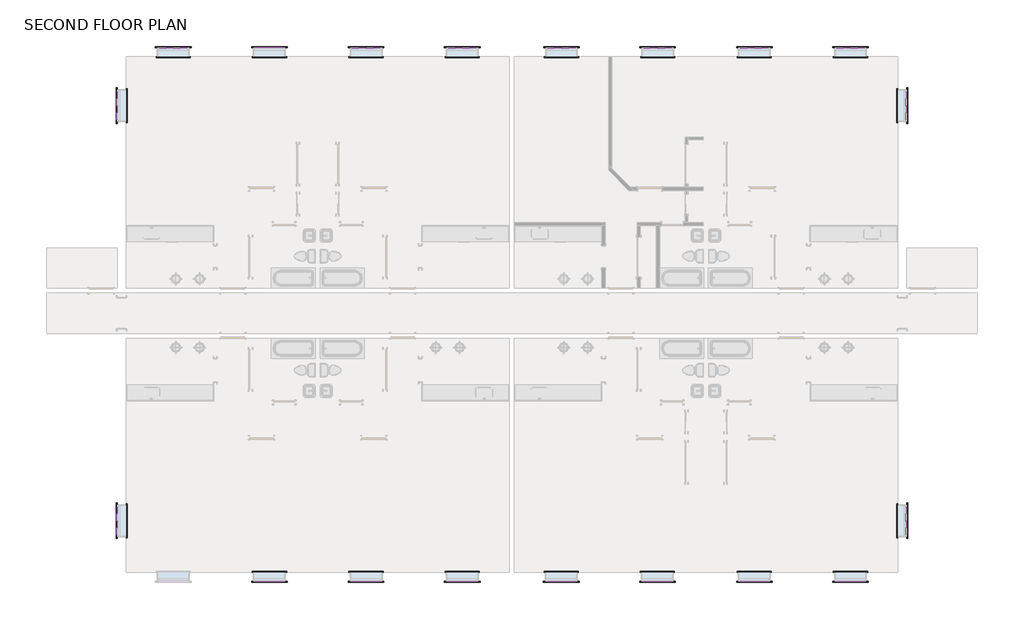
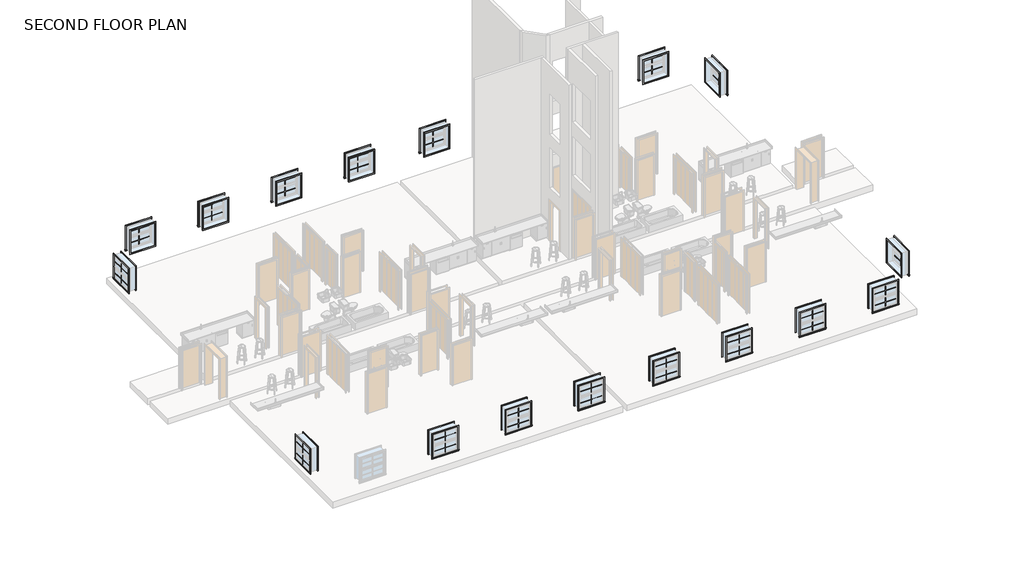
# One storey, part 3 of 3: 76 proxies.
"""IFC4 building model written with IfcOpenShell, lengths in millimetres."""

from ifc_helpers import new_model, si_unit, origin, place, context, project, spatial, transform, mapped, element, save
from components import muntin_pattern_2x2_muntin_pattern_2x2_c44f4804, muntin_pattern_2x2_muntin_pattern_2x2_05dfa543, muntin_pattern_2x2_muntin_pattern_2x2_770224b8, muntin_pattern_2x2_muntin_pattern_2x2_cf99dd86, trim_window_exterior_flat_with_sill_7cfdd449, trim_window_exterior_flat_with_sill_ac84ebb5, trim_window_interior_flat_picture_frame_f1e0b15b, trim_window_interior_flat_picture_frame_caf2db4f

model = new_model("IFC4")

# Units and contexts
model_context = context("Model", 3, world=origin())
ifc_project = project(units=[si_unit("LENGTHUNIT", "METRE", prefix="MILLI")], contexts=[model_context])

# Site, building, storey
site = spatial("IfcSite", under=ifc_project)
building = spatial("IfcBuilding", under=site)
storey = spatial("IfcBuildingStorey", under=building, Name="SECOND FLOOR PLAN", Elevation=2844.8)

# Proxies
placement = place(None, origin())
muntin_pattern_2x2_muntin_pattern_2x2_shape = muntin_pattern_2x2_muntin_pattern_2x2_c44f4804(model_context)
element("IfcBuildingElementProxy", 1, Name="Muntin Pattern_2x2 : Muntin Pattern_2x2", ObjectType="Muntin Pattern_2x2 : Muntin Pattern_2x2", at=placement, inside=storey, context=model_context, shape_type="MappedRepresentation", body=[
    mapped(muntin_pattern_2x2_muntin_pattern_2x2_shape, transform((-5537.3665125, 13431.007194, 4438.65), x_axis=(0.0, 1.0, 0.0), y_axis=(-1.0, 0.0, 0.0), z_axis=(0.0, 0.0, 1.0))),
])
element("IfcBuildingElementProxy", 2, Name="Muntin Pattern_2x2 : Muntin Pattern_2x2", ObjectType="Muntin Pattern_2x2 : Muntin Pattern_2x2", at=placement, inside=storey, context=model_context, shape_type="MappedRepresentation", body=[
    mapped(muntin_pattern_2x2_muntin_pattern_2x2_shape, transform((-3399.0477625, 15644.6887881, 4438.65), x_axis=(1.0, 0.0, 0.0), y_axis=(0.0, 1.0, 0.0), z_axis=(0.0, 0.0, 1.0))),
])
element("IfcBuildingElementProxy", 3, Name="Muntin Pattern_2x2 : Muntin Pattern_2x2", ObjectType="Muntin Pattern_2x2 : Muntin Pattern_2x2", at=placement, inside=storey, context=model_context, shape_type="MappedRepresentation", body=[
    mapped(muntin_pattern_2x2_muntin_pattern_2x2_shape, transform((271.9647375, 15644.6887881, 4438.65), x_axis=(1.0, 0.0, 0.0), y_axis=(0.0, 1.0, 0.0), z_axis=(0.0, 0.0, 1.0))),
])
element("IfcBuildingElementProxy", 4, Name="Muntin Pattern_2x2 : Muntin Pattern_2x2", ObjectType="Muntin Pattern_2x2 : Muntin Pattern_2x2", at=placement, inside=storey, context=model_context, shape_type="MappedRepresentation", body=[
    mapped(muntin_pattern_2x2_muntin_pattern_2x2_shape, transform((7635.6647375, -4742.0612119, 4438.65), x_axis=(-1.0, 0.0, 0.0), y_axis=(0.0, -1.0, 0.0), z_axis=(0.0, 0.0, 1.0))),
])
element("IfcBuildingElementProxy", 5, Name="Muntin Pattern_2x2 : Muntin Pattern_2x2", ObjectType="Muntin Pattern_2x2 : Muntin Pattern_2x2", at=placement, inside=storey, context=model_context, shape_type="MappedRepresentation", body=[
    mapped(muntin_pattern_2x2_muntin_pattern_2x2_shape, transform((3964.6522375, -4742.0612119, 4438.65), x_axis=(-1.0, 0.0, 0.0), y_axis=(0.0, -1.0, 0.0), z_axis=(0.0, 0.0, 1.0))),
])
element("IfcBuildingElementProxy", 6, Name="Muntin Pattern_2x2 : Muntin Pattern_2x2", ObjectType="Muntin Pattern_2x2 : Muntin Pattern_2x2", at=placement, inside=storey, context=model_context, shape_type="MappedRepresentation", body=[
    mapped(muntin_pattern_2x2_muntin_pattern_2x2_shape, transform((24597.5834875, -2431.3796179, 4438.65), x_axis=(0.0, -1.0, 0.0), y_axis=(1.0, 0.0, 0.0), z_axis=(0.0, 0.0, 1.0))),
])
element("IfcBuildingElementProxy", 7, Name="Muntin Pattern_2x2 : Muntin Pattern_2x2", ObjectType="Muntin Pattern_2x2 : Muntin Pattern_2x2", at=placement, inside=storey, context=model_context, shape_type="MappedRepresentation", body=[
    mapped(muntin_pattern_2x2_muntin_pattern_2x2_shape, transform((22460.0647375, -4742.0612119, 4438.65), x_axis=(-1.0, 0.0, 0.0), y_axis=(0.0, -1.0, 0.0), z_axis=(0.0, 0.0, 1.0))),
])
element("IfcBuildingElementProxy", 8, Name="Muntin Pattern_2x2 : Muntin Pattern_2x2", ObjectType="Muntin Pattern_2x2 : Muntin Pattern_2x2", at=placement, inside=storey, context=model_context, shape_type="MappedRepresentation", body=[
    mapped(muntin_pattern_2x2_muntin_pattern_2x2_shape, transform((18789.0522375, -4742.0612119, 4438.65), x_axis=(-1.0, 0.0, 0.0), y_axis=(0.0, -1.0, 0.0), z_axis=(0.0, 0.0, 1.0))),
])
element("IfcBuildingElementProxy", 9, Name="Muntin Pattern_2x2 : Muntin Pattern_2x2", ObjectType="Muntin Pattern_2x2 : Muntin Pattern_2x2", at=placement, inside=storey, context=model_context, shape_type="MappedRepresentation", body=[
    mapped(muntin_pattern_2x2_muntin_pattern_2x2_shape, transform((11425.3522375, 15644.6887881, 4438.65), x_axis=(1.0, 0.0, 0.0), y_axis=(0.0, 1.0, 0.0), z_axis=(0.0, 0.0, 1.0))),
])
element("IfcBuildingElementProxy", 10, Name="Muntin Pattern_2x2 : Muntin Pattern_2x2", ObjectType="Muntin Pattern_2x2 : Muntin Pattern_2x2", at=placement, inside=storey, context=model_context, shape_type="MappedRepresentation", body=[
    mapped(muntin_pattern_2x2_muntin_pattern_2x2_shape, transform((15096.3647375, 15644.6887881, 4438.65), x_axis=(1.0, 0.0, 0.0), y_axis=(0.0, 1.0, 0.0), z_axis=(0.0, 0.0, 1.0))),
])
muntin_pattern_2x2_muntin_pattern_2x2_2_shape = muntin_pattern_2x2_muntin_pattern_2x2_05dfa543(model_context)
element("IfcBuildingElementProxy", 11, Name="Muntin Pattern_2x2 : Muntin Pattern_2x2", ObjectType="Muntin Pattern_2x2 : Muntin Pattern_2x2", at=placement, inside=storey, context=model_context, shape_type="MappedRepresentation", body=[
    mapped(muntin_pattern_2x2_muntin_pattern_2x2_2_shape, transform((-5537.3665125, 13431.007194, 3829.05), x_axis=(0.0, 1.0, 0.0), y_axis=(-1.0, 0.0, 0.0), z_axis=(0.0, 0.0, 1.0))),
])
element("IfcBuildingElementProxy", 12, Name="Muntin Pattern_2x2 : Muntin Pattern_2x2", ObjectType="Muntin Pattern_2x2 : Muntin Pattern_2x2", at=placement, inside=storey, context=model_context, shape_type="MappedRepresentation", body=[
    mapped(muntin_pattern_2x2_muntin_pattern_2x2_2_shape, transform((-3399.0477625, 15644.6887881, 3829.05), x_axis=(1.0, 0.0, 0.0), y_axis=(0.0, 1.0, 0.0), z_axis=(0.0, 0.0, 1.0))),
])
element("IfcBuildingElementProxy", 13, Name="Muntin Pattern_2x2 : Muntin Pattern_2x2", ObjectType="Muntin Pattern_2x2 : Muntin Pattern_2x2", at=placement, inside=storey, context=model_context, shape_type="MappedRepresentation", body=[
    mapped(muntin_pattern_2x2_muntin_pattern_2x2_2_shape, transform((271.9647375, 15644.6887881, 3829.05), x_axis=(1.0, 0.0, 0.0), y_axis=(0.0, 1.0, 0.0), z_axis=(0.0, 0.0, 1.0))),
])
element("IfcBuildingElementProxy", 14, Name="Muntin Pattern_2x2 : Muntin Pattern_2x2", ObjectType="Muntin Pattern_2x2 : Muntin Pattern_2x2", at=placement, inside=storey, context=model_context, shape_type="MappedRepresentation", body=[
    mapped(muntin_pattern_2x2_muntin_pattern_2x2_2_shape, transform((7635.6647375, -4742.0612119, 3829.05), x_axis=(-1.0, 0.0, 0.0), y_axis=(0.0, -1.0, 0.0), z_axis=(0.0, 0.0, 1.0))),
])
element("IfcBuildingElementProxy", 15, Name="Muntin Pattern_2x2 : Muntin Pattern_2x2", ObjectType="Muntin Pattern_2x2 : Muntin Pattern_2x2", at=placement, inside=storey, context=model_context, shape_type="MappedRepresentation", body=[
    mapped(muntin_pattern_2x2_muntin_pattern_2x2_2_shape, transform((3964.6522375, -4742.0612119, 3829.05), x_axis=(-1.0, 0.0, 0.0), y_axis=(0.0, -1.0, 0.0), z_axis=(0.0, 0.0, 1.0))),
])
element("IfcBuildingElementProxy", 16, Name="Muntin Pattern_2x2 : Muntin Pattern_2x2", ObjectType="Muntin Pattern_2x2 : Muntin Pattern_2x2", at=placement, inside=storey, context=model_context, shape_type="MappedRepresentation", body=[
    mapped(muntin_pattern_2x2_muntin_pattern_2x2_2_shape, transform((24597.5834875, -2431.3796179, 3829.05), x_axis=(0.0, -1.0, 0.0), y_axis=(1.0, 0.0, 0.0), z_axis=(0.0, 0.0, 1.0))),
])
element("IfcBuildingElementProxy", 17, Name="Muntin Pattern_2x2 : Muntin Pattern_2x2", ObjectType="Muntin Pattern_2x2 : Muntin Pattern_2x2", at=placement, inside=storey, context=model_context, shape_type="MappedRepresentation", body=[
    mapped(muntin_pattern_2x2_muntin_pattern_2x2_2_shape, transform((22460.0647375, -4742.0612119, 3829.05), x_axis=(-1.0, 0.0, 0.0), y_axis=(0.0, -1.0, 0.0), z_axis=(0.0, 0.0, 1.0))),
])
element("IfcBuildingElementProxy", 18, Name="Muntin Pattern_2x2 : Muntin Pattern_2x2", ObjectType="Muntin Pattern_2x2 : Muntin Pattern_2x2", at=placement, inside=storey, context=model_context, shape_type="MappedRepresentation", body=[
    mapped(muntin_pattern_2x2_muntin_pattern_2x2_2_shape, transform((18789.0522375, -4742.0612119, 3829.05), x_axis=(-1.0, 0.0, 0.0), y_axis=(0.0, -1.0, 0.0), z_axis=(0.0, 0.0, 1.0))),
])
element("IfcBuildingElementProxy", 19, Name="Muntin Pattern_2x2 : Muntin Pattern_2x2", ObjectType="Muntin Pattern_2x2 : Muntin Pattern_2x2", at=placement, inside=storey, context=model_context, shape_type="MappedRepresentation", body=[
    mapped(muntin_pattern_2x2_muntin_pattern_2x2_2_shape, transform((11425.3522375, 15644.6887881, 3829.05), x_axis=(1.0, 0.0, 0.0), y_axis=(0.0, 1.0, 0.0), z_axis=(0.0, 0.0, 1.0))),
])
element("IfcBuildingElementProxy", 20, Name="Muntin Pattern_2x2 : Muntin Pattern_2x2", ObjectType="Muntin Pattern_2x2 : Muntin Pattern_2x2", at=placement, inside=storey, context=model_context, shape_type="MappedRepresentation", body=[
    mapped(muntin_pattern_2x2_muntin_pattern_2x2_2_shape, transform((15096.3647375, 15644.6887881, 3829.05), x_axis=(1.0, 0.0, 0.0), y_axis=(0.0, 1.0, 0.0), z_axis=(0.0, 0.0, 1.0))),
])
muntin_pattern_2x2_muntin_pattern_2x2_3_shape = muntin_pattern_2x2_muntin_pattern_2x2_770224b8(model_context)
element("IfcBuildingElementProxy", 21, Name="Muntin Pattern_2x2 : Muntin Pattern_2x2", ObjectType="Muntin Pattern_2x2 : Muntin Pattern_2x2", at=placement, inside=storey, context=model_context, shape_type="MappedRepresentation", body=[
    mapped(muntin_pattern_2x2_muntin_pattern_2x2_3_shape, transform((7635.6647375, 15644.6887881, 4438.65), x_axis=(-1.0, 0.0, 0.0), y_axis=(0.0, -1.0, 0.0), z_axis=(0.0, 0.0, 1.0))),
])
element("IfcBuildingElementProxy", 22, Name="Muntin Pattern_2x2 : Muntin Pattern_2x2", ObjectType="Muntin Pattern_2x2 : Muntin Pattern_2x2", at=placement, inside=storey, context=model_context, shape_type="MappedRepresentation", body=[
    mapped(muntin_pattern_2x2_muntin_pattern_2x2_3_shape, transform((3964.6522375, 15644.6887881, 4438.65), x_axis=(-1.0, 0.0, 0.0), y_axis=(0.0, -1.0, 0.0), z_axis=(0.0, 0.0, 1.0))),
])
element("IfcBuildingElementProxy", 23, Name="Muntin Pattern_2x2 : Muntin Pattern_2x2", ObjectType="Muntin Pattern_2x2 : Muntin Pattern_2x2", at=placement, inside=storey, context=model_context, shape_type="MappedRepresentation", body=[
    mapped(muntin_pattern_2x2_muntin_pattern_2x2_3_shape, transform((24597.5834875, 13431.007194, 4438.65), x_axis=(0.0, 1.0, 0.0), y_axis=(-1.0, 0.0, 0.0), z_axis=(0.0, 0.0, 1.0))),
])
element("IfcBuildingElementProxy", 24, Name="Muntin Pattern_2x2 : Muntin Pattern_2x2", ObjectType="Muntin Pattern_2x2 : Muntin Pattern_2x2", at=placement, inside=storey, context=model_context, shape_type="MappedRepresentation", body=[
    mapped(muntin_pattern_2x2_muntin_pattern_2x2_3_shape, transform((22460.0647375, 15644.6887881, 4438.65), x_axis=(-1.0, 0.0, 0.0), y_axis=(0.0, -1.0, 0.0), z_axis=(0.0, 0.0, 1.0))),
])
element("IfcBuildingElementProxy", 25, Name="Muntin Pattern_2x2 : Muntin Pattern_2x2", ObjectType="Muntin Pattern_2x2 : Muntin Pattern_2x2", at=placement, inside=storey, context=model_context, shape_type="MappedRepresentation", body=[
    mapped(muntin_pattern_2x2_muntin_pattern_2x2_3_shape, transform((18789.0522375, 15644.6887881, 4438.65), x_axis=(-1.0, 0.0, 0.0), y_axis=(0.0, -1.0, 0.0), z_axis=(0.0, 0.0, 1.0))),
])
element("IfcBuildingElementProxy", 26, Name="Muntin Pattern_2x2 : Muntin Pattern_2x2", ObjectType="Muntin Pattern_2x2 : Muntin Pattern_2x2", at=placement, inside=storey, context=model_context, shape_type="MappedRepresentation", body=[
    mapped(muntin_pattern_2x2_muntin_pattern_2x2_3_shape, transform((-5537.3665125, -2431.3796179, 4438.65), x_axis=(0.0, -1.0, 0.0), y_axis=(1.0, 0.0, 0.0), z_axis=(0.0, 0.0, 1.0))),
])
element("IfcBuildingElementProxy", 27, Name="Muntin Pattern_2x2 : Muntin Pattern_2x2", ObjectType="Muntin Pattern_2x2 : Muntin Pattern_2x2", at=placement, inside=storey, context=model_context, shape_type="MappedRepresentation", body=[
    mapped(muntin_pattern_2x2_muntin_pattern_2x2_3_shape, transform((271.9647375, -4742.0612119, 4438.65), x_axis=(1.0, 0.0, 0.0), y_axis=(0.0, 1.0, 0.0), z_axis=(0.0, 0.0, 1.0))),
])
element("IfcBuildingElementProxy", 28, Name="Muntin Pattern_2x2 : Muntin Pattern_2x2", ObjectType="Muntin Pattern_2x2 : Muntin Pattern_2x2", at=placement, inside=storey, context=model_context, shape_type="MappedRepresentation", body=[
    mapped(muntin_pattern_2x2_muntin_pattern_2x2_3_shape, transform((11414.5522375, -4742.0612119, 4438.65), x_axis=(1.0, 0.0, 0.0), y_axis=(0.0, 1.0, 0.0), z_axis=(0.0, 0.0, 1.0))),
])
element("IfcBuildingElementProxy", 29, Name="Muntin Pattern_2x2 : Muntin Pattern_2x2", ObjectType="Muntin Pattern_2x2 : Muntin Pattern_2x2", at=placement, inside=storey, context=model_context, shape_type="MappedRepresentation", body=[
    mapped(muntin_pattern_2x2_muntin_pattern_2x2_3_shape, transform((15085.5647375, -4742.0612119, 4438.65), x_axis=(1.0, 0.0, 0.0), y_axis=(0.0, 1.0, 0.0), z_axis=(0.0, 0.0, 1.0))),
])
muntin_pattern_2x2_muntin_pattern_2x2_4_shape = muntin_pattern_2x2_muntin_pattern_2x2_cf99dd86(model_context)
element("IfcBuildingElementProxy", 30, Name="Muntin Pattern_2x2 : Muntin Pattern_2x2", ObjectType="Muntin Pattern_2x2 : Muntin Pattern_2x2", at=placement, inside=storey, context=model_context, shape_type="MappedRepresentation", body=[
    mapped(muntin_pattern_2x2_muntin_pattern_2x2_4_shape, transform((7635.6647375, 15644.6887881, 3829.05), x_axis=(-1.0, 0.0, 0.0), y_axis=(0.0, -1.0, 0.0), z_axis=(0.0, 0.0, 1.0))),
])
element("IfcBuildingElementProxy", 31, Name="Muntin Pattern_2x2 : Muntin Pattern_2x2", ObjectType="Muntin Pattern_2x2 : Muntin Pattern_2x2", at=placement, inside=storey, context=model_context, shape_type="MappedRepresentation", body=[
    mapped(muntin_pattern_2x2_muntin_pattern_2x2_4_shape, transform((3964.6522375, 15644.6887881, 3829.05), x_axis=(-1.0, 0.0, 0.0), y_axis=(0.0, -1.0, 0.0), z_axis=(0.0, 0.0, 1.0))),
])
element("IfcBuildingElementProxy", 32, Name="Muntin Pattern_2x2 : Muntin Pattern_2x2", ObjectType="Muntin Pattern_2x2 : Muntin Pattern_2x2", at=placement, inside=storey, context=model_context, shape_type="MappedRepresentation", body=[
    mapped(muntin_pattern_2x2_muntin_pattern_2x2_4_shape, transform((24597.5834875, 13431.007194, 3829.05), x_axis=(0.0, 1.0, 0.0), y_axis=(-1.0, 0.0, 0.0), z_axis=(0.0, 0.0, 1.0))),
])
element("IfcBuildingElementProxy", 33, Name="Muntin Pattern_2x2 : Muntin Pattern_2x2", ObjectType="Muntin Pattern_2x2 : Muntin Pattern_2x2", at=placement, inside=storey, context=model_context, shape_type="MappedRepresentation", body=[
    mapped(muntin_pattern_2x2_muntin_pattern_2x2_4_shape, transform((22460.0647375, 15644.6887881, 3829.05), x_axis=(-1.0, 0.0, 0.0), y_axis=(0.0, -1.0, 0.0), z_axis=(0.0, 0.0, 1.0))),
])
element("IfcBuildingElementProxy", 34, Name="Muntin Pattern_2x2 : Muntin Pattern_2x2", ObjectType="Muntin Pattern_2x2 : Muntin Pattern_2x2", at=placement, inside=storey, context=model_context, shape_type="MappedRepresentation", body=[
    mapped(muntin_pattern_2x2_muntin_pattern_2x2_4_shape, transform((18789.0522375, 15644.6887881, 3829.05), x_axis=(-1.0, 0.0, 0.0), y_axis=(0.0, -1.0, 0.0), z_axis=(0.0, 0.0, 1.0))),
])
element("IfcBuildingElementProxy", 35, Name="Muntin Pattern_2x2 : Muntin Pattern_2x2", ObjectType="Muntin Pattern_2x2 : Muntin Pattern_2x2", at=placement, inside=storey, context=model_context, shape_type="MappedRepresentation", body=[
    mapped(muntin_pattern_2x2_muntin_pattern_2x2_4_shape, transform((-5537.3665125, -2431.3796179, 3829.05), x_axis=(0.0, -1.0, 0.0), y_axis=(1.0, 0.0, 0.0), z_axis=(0.0, 0.0, 1.0))),
])
element("IfcBuildingElementProxy", 36, Name="Muntin Pattern_2x2 : Muntin Pattern_2x2", ObjectType="Muntin Pattern_2x2 : Muntin Pattern_2x2", at=placement, inside=storey, context=model_context, shape_type="MappedRepresentation", body=[
    mapped(muntin_pattern_2x2_muntin_pattern_2x2_4_shape, transform((271.9647375, -4742.0612119, 3829.05), x_axis=(1.0, 0.0, 0.0), y_axis=(0.0, 1.0, 0.0), z_axis=(0.0, 0.0, 1.0))),
])
element("IfcBuildingElementProxy", 37, Name="Muntin Pattern_2x2 : Muntin Pattern_2x2", ObjectType="Muntin Pattern_2x2 : Muntin Pattern_2x2", at=placement, inside=storey, context=model_context, shape_type="MappedRepresentation", body=[
    mapped(muntin_pattern_2x2_muntin_pattern_2x2_4_shape, transform((11414.5522375, -4742.0612119, 3829.05), x_axis=(1.0, 0.0, 0.0), y_axis=(0.0, 1.0, 0.0), z_axis=(0.0, 0.0, 1.0))),
])
element("IfcBuildingElementProxy", 38, Name="Muntin Pattern_2x2 : Muntin Pattern_2x2", ObjectType="Muntin Pattern_2x2 : Muntin Pattern_2x2", at=placement, inside=storey, context=model_context, shape_type="MappedRepresentation", body=[
    mapped(muntin_pattern_2x2_muntin_pattern_2x2_4_shape, transform((15085.5647375, -4742.0612119, 3829.05), x_axis=(1.0, 0.0, 0.0), y_axis=(0.0, 1.0, 0.0), z_axis=(0.0, 0.0, 1.0))),
])
trim_window_exterior_flat_with_sill_shape = trim_window_exterior_flat_with_sill_7cfdd449(model_context)
element("IfcBuildingElementProxy", 39, Name="Trim-Window-Exterior-Flat : with Sill", ObjectType="Trim-Window-Exterior-Flat : with Sill", at=placement, inside=storey, context=model_context, shape_type="MappedRepresentation", body=[
    mapped(trim_window_exterior_flat_with_sill_shape, transform((-5546.8915125, 13431.007194, 4978.4), x_axis=(0.0, -1.0, 0.0), y_axis=(0.0, 0.0, 1.0), z_axis=(-1.0, 0.0, 0.0))),
])
element("IfcBuildingElementProxy", 40, Name="Trim-Window-Exterior-Flat : with Sill", ObjectType="Trim-Window-Exterior-Flat : with Sill", at=placement, inside=storey, context=model_context, shape_type="MappedRepresentation", body=[
    mapped(trim_window_exterior_flat_with_sill_shape, transform((-3399.0477625, 15654.2137881, 4978.4), x_axis=(-1.0, 0.0, 0.0), y_axis=(0.0, 0.0, 1.0), z_axis=(0.0, 1.0, 0.0))),
])
element("IfcBuildingElementProxy", 41, Name="Trim-Window-Exterior-Flat : with Sill", ObjectType="Trim-Window-Exterior-Flat : with Sill", at=placement, inside=storey, context=model_context, shape_type="MappedRepresentation", body=[
    mapped(trim_window_exterior_flat_with_sill_shape, transform((271.9647375, 15654.2137881, 4978.4), x_axis=(-1.0, 0.0, 0.0), y_axis=(0.0, 0.0, 1.0), z_axis=(0.0, 1.0, 0.0))),
])
element("IfcBuildingElementProxy", 42, Name="Trim-Window-Exterior-Flat : with Sill", ObjectType="Trim-Window-Exterior-Flat : with Sill", at=placement, inside=storey, context=model_context, shape_type="MappedRepresentation", body=[
    mapped(trim_window_exterior_flat_with_sill_shape, transform((7635.6647375, -4751.5862119, 4978.4), x_axis=(1.0, 0.0, 0.0), y_axis=(0.0, 0.0, 1.0), z_axis=(0.0, -1.0, 0.0))),
])
element("IfcBuildingElementProxy", 43, Name="Trim-Window-Exterior-Flat : with Sill", ObjectType="Trim-Window-Exterior-Flat : with Sill", at=placement, inside=storey, context=model_context, shape_type="MappedRepresentation", body=[
    mapped(trim_window_exterior_flat_with_sill_shape, transform((3964.6522375, -4751.5862119, 4978.4), x_axis=(1.0, 0.0, 0.0), y_axis=(0.0, 0.0, 1.0), z_axis=(0.0, -1.0, 0.0))),
])
element("IfcBuildingElementProxy", 44, Name="Trim-Window-Exterior-Flat : with Sill", ObjectType="Trim-Window-Exterior-Flat : with Sill", at=placement, inside=storey, context=model_context, shape_type="MappedRepresentation", body=[
    mapped(trim_window_exterior_flat_with_sill_shape, transform((24607.1084875, -2431.3796179, 4978.4), x_axis=(0.0, 1.0, 0.0), y_axis=(0.0, 0.0, 1.0), z_axis=(1.0, 0.0, 0.0))),
])
element("IfcBuildingElementProxy", 45, Name="Trim-Window-Exterior-Flat : with Sill", ObjectType="Trim-Window-Exterior-Flat : with Sill", at=placement, inside=storey, context=model_context, shape_type="MappedRepresentation", body=[
    mapped(trim_window_exterior_flat_with_sill_shape, transform((22460.0647375, -4751.5862119, 4978.4), x_axis=(1.0, 0.0, 0.0), y_axis=(0.0, 0.0, 1.0), z_axis=(0.0, -1.0, 0.0))),
])
element("IfcBuildingElementProxy", 46, Name="Trim-Window-Exterior-Flat : with Sill", ObjectType="Trim-Window-Exterior-Flat : with Sill", at=placement, inside=storey, context=model_context, shape_type="MappedRepresentation", body=[
    mapped(trim_window_exterior_flat_with_sill_shape, transform((18789.0522375, -4751.5862119, 4978.4), x_axis=(1.0, 0.0, 0.0), y_axis=(0.0, 0.0, 1.0), z_axis=(0.0, -1.0, 0.0))),
])
element("IfcBuildingElementProxy", 47, Name="Trim-Window-Exterior-Flat : with Sill", ObjectType="Trim-Window-Exterior-Flat : with Sill", at=placement, inside=storey, context=model_context, shape_type="MappedRepresentation", body=[
    mapped(trim_window_exterior_flat_with_sill_shape, transform((11425.3522375, 15654.2137881, 4978.4), x_axis=(-1.0, 0.0, 0.0), y_axis=(0.0, 0.0, 1.0), z_axis=(0.0, 1.0, 0.0))),
])
element("IfcBuildingElementProxy", 48, Name="Trim-Window-Exterior-Flat : with Sill", ObjectType="Trim-Window-Exterior-Flat : with Sill", at=placement, inside=storey, context=model_context, shape_type="MappedRepresentation", body=[
    mapped(trim_window_exterior_flat_with_sill_shape, transform((15096.3647375, 15654.2137881, 4978.4), x_axis=(-1.0, 0.0, 0.0), y_axis=(0.0, 0.0, 1.0), z_axis=(0.0, 1.0, 0.0))),
])
trim_window_exterior_flat_with_sill_2_shape = trim_window_exterior_flat_with_sill_ac84ebb5(model_context)
element("IfcBuildingElementProxy", 49, Name="Trim-Window-Exterior-Flat : with Sill", ObjectType="Trim-Window-Exterior-Flat : with Sill", at=placement, inside=storey, context=model_context, shape_type="MappedRepresentation", body=[
    mapped(trim_window_exterior_flat_with_sill_2_shape, transform((7635.6647375, 15654.2137881, 4978.4), x_axis=(1.0, 0.0, 0.0), y_axis=(0.0, 0.0, -1.0), z_axis=(0.0, 1.0, 0.0))),
])
element("IfcBuildingElementProxy", 50, Name="Trim-Window-Exterior-Flat : with Sill", ObjectType="Trim-Window-Exterior-Flat : with Sill", at=placement, inside=storey, context=model_context, shape_type="MappedRepresentation", body=[
    mapped(trim_window_exterior_flat_with_sill_2_shape, transform((3964.6522375, 15654.2137881, 4978.4), x_axis=(1.0, 0.0, 0.0), y_axis=(0.0, 0.0, -1.0), z_axis=(0.0, 1.0, 0.0))),
])
element("IfcBuildingElementProxy", 51, Name="Trim-Window-Exterior-Flat : with Sill", ObjectType="Trim-Window-Exterior-Flat : with Sill", at=placement, inside=storey, context=model_context, shape_type="MappedRepresentation", body=[
    mapped(trim_window_exterior_flat_with_sill_2_shape, transform((24607.1084875, 13431.007194, 4978.4), x_axis=(0.0, -1.0, 0.0), y_axis=(0.0, 0.0, -1.0), z_axis=(1.0, 0.0, 0.0))),
])
element("IfcBuildingElementProxy", 52, Name="Trim-Window-Exterior-Flat : with Sill", ObjectType="Trim-Window-Exterior-Flat : with Sill", at=placement, inside=storey, context=model_context, shape_type="MappedRepresentation", body=[
    mapped(trim_window_exterior_flat_with_sill_2_shape, transform((22460.0647375, 15654.2137881, 4978.4), x_axis=(1.0, 0.0, 0.0), y_axis=(0.0, 0.0, -1.0), z_axis=(0.0, 1.0, 0.0))),
])
element("IfcBuildingElementProxy", 53, Name="Trim-Window-Exterior-Flat : with Sill", ObjectType="Trim-Window-Exterior-Flat : with Sill", at=placement, inside=storey, context=model_context, shape_type="MappedRepresentation", body=[
    mapped(trim_window_exterior_flat_with_sill_2_shape, transform((18789.0522375, 15654.2137881, 4978.4), x_axis=(1.0, 0.0, 0.0), y_axis=(0.0, 0.0, -1.0), z_axis=(0.0, 1.0, 0.0))),
])
element("IfcBuildingElementProxy", 54, Name="Trim-Window-Exterior-Flat : with Sill", ObjectType="Trim-Window-Exterior-Flat : with Sill", at=placement, inside=storey, context=model_context, shape_type="MappedRepresentation", body=[
    mapped(trim_window_exterior_flat_with_sill_2_shape, transform((-5546.8915125, -2431.3796179, 4978.4), x_axis=(0.0, 1.0, 0.0), y_axis=(0.0, 0.0, -1.0), z_axis=(-1.0, 0.0, 0.0))),
])
element("IfcBuildingElementProxy", 55, Name="Trim-Window-Exterior-Flat : with Sill", ObjectType="Trim-Window-Exterior-Flat : with Sill", at=placement, inside=storey, context=model_context, shape_type="MappedRepresentation", body=[
    mapped(trim_window_exterior_flat_with_sill_2_shape, transform((271.9647375, -4751.5862119, 4978.4), x_axis=(-1.0, 0.0, 0.0), y_axis=(0.0, 0.0, -1.0), z_axis=(0.0, -1.0, 0.0))),
])
element("IfcBuildingElementProxy", 56, Name="Trim-Window-Exterior-Flat : with Sill", ObjectType="Trim-Window-Exterior-Flat : with Sill", at=placement, inside=storey, context=model_context, shape_type="MappedRepresentation", body=[
    mapped(trim_window_exterior_flat_with_sill_2_shape, transform((11414.5522375, -4751.5862119, 4978.4), x_axis=(-1.0, 0.0, 0.0), y_axis=(0.0, 0.0, -1.0), z_axis=(0.0, -1.0, 0.0))),
])
element("IfcBuildingElementProxy", 57, Name="Trim-Window-Exterior-Flat : with Sill", ObjectType="Trim-Window-Exterior-Flat : with Sill", at=placement, inside=storey, context=model_context, shape_type="MappedRepresentation", body=[
    mapped(trim_window_exterior_flat_with_sill_2_shape, transform((15085.5647375, -4751.5862119, 4978.4), x_axis=(-1.0, 0.0, 0.0), y_axis=(0.0, 0.0, -1.0), z_axis=(0.0, -1.0, 0.0))),
])
trim_window_interior_flat_picture_frame_shape = trim_window_interior_flat_picture_frame_f1e0b15b(model_context)
element("IfcBuildingElementProxy", 58, Name="Trim-Window-Interior-Flat : Picture Frame", ObjectType="Trim-Window-Interior-Flat : Picture Frame", at=placement, inside=storey, context=model_context, shape_type="MappedRepresentation", body=[
    mapped(trim_window_interior_flat_picture_frame_shape, transform((-5196.8915125, 13431.007194, 4978.4), x_axis=(0.0, 1.0, 0.0), y_axis=(0.0, 0.0, 1.0), z_axis=(1.0, 0.0, 0.0))),
])
element("IfcBuildingElementProxy", 59, Name="Trim-Window-Interior-Flat : Picture Frame", ObjectType="Trim-Window-Interior-Flat : Picture Frame", at=placement, inside=storey, context=model_context, shape_type="MappedRepresentation", body=[
    mapped(trim_window_interior_flat_picture_frame_shape, transform((-3399.0477625, 15304.2137881, 4978.4), x_axis=(1.0, 0.0, 0.0), y_axis=(0.0, 0.0, 1.0), z_axis=(0.0, -1.0, 0.0))),
])
element("IfcBuildingElementProxy", 60, Name="Trim-Window-Interior-Flat : Picture Frame", ObjectType="Trim-Window-Interior-Flat : Picture Frame", at=placement, inside=storey, context=model_context, shape_type="MappedRepresentation", body=[
    mapped(trim_window_interior_flat_picture_frame_shape, transform((271.9647375, 15304.2137881, 4978.4), x_axis=(1.0, 0.0, 0.0), y_axis=(0.0, 0.0, 1.0), z_axis=(0.0, -1.0, 0.0))),
])
element("IfcBuildingElementProxy", 61, Name="Trim-Window-Interior-Flat : Picture Frame", ObjectType="Trim-Window-Interior-Flat : Picture Frame", at=placement, inside=storey, context=model_context, shape_type="MappedRepresentation", body=[
    mapped(trim_window_interior_flat_picture_frame_shape, transform((7635.6647375, -4401.5862119, 4978.4), x_axis=(-1.0, 0.0, 0.0), y_axis=(0.0, 0.0, 1.0), z_axis=(0.0, 1.0, 0.0))),
])
element("IfcBuildingElementProxy", 62, Name="Trim-Window-Interior-Flat : Picture Frame", ObjectType="Trim-Window-Interior-Flat : Picture Frame", at=placement, inside=storey, context=model_context, shape_type="MappedRepresentation", body=[
    mapped(trim_window_interior_flat_picture_frame_shape, transform((3964.6522375, -4401.5862119, 4978.4), x_axis=(-1.0, 0.0, 0.0), y_axis=(0.0, 0.0, 1.0), z_axis=(0.0, 1.0, 0.0))),
])
element("IfcBuildingElementProxy", 63, Name="Trim-Window-Interior-Flat : Picture Frame", ObjectType="Trim-Window-Interior-Flat : Picture Frame", at=placement, inside=storey, context=model_context, shape_type="MappedRepresentation", body=[
    mapped(trim_window_interior_flat_picture_frame_shape, transform((24257.1084875, -2431.3796179, 4978.4), x_axis=(0.0, -1.0, 0.0), y_axis=(0.0, 0.0, 1.0), z_axis=(-1.0, 0.0, 0.0))),
])
element("IfcBuildingElementProxy", 64, Name="Trim-Window-Interior-Flat : Picture Frame", ObjectType="Trim-Window-Interior-Flat : Picture Frame", at=placement, inside=storey, context=model_context, shape_type="MappedRepresentation", body=[
    mapped(trim_window_interior_flat_picture_frame_shape, transform((22460.0647375, -4401.5862119, 4978.4), x_axis=(-1.0, 0.0, 0.0), y_axis=(0.0, 0.0, 1.0), z_axis=(0.0, 1.0, 0.0))),
])
element("IfcBuildingElementProxy", 65, Name="Trim-Window-Interior-Flat : Picture Frame", ObjectType="Trim-Window-Interior-Flat : Picture Frame", at=placement, inside=storey, context=model_context, shape_type="MappedRepresentation", body=[
    mapped(trim_window_interior_flat_picture_frame_shape, transform((18789.0522375, -4401.5862119, 4978.4), x_axis=(-1.0, 0.0, 0.0), y_axis=(0.0, 0.0, 1.0), z_axis=(0.0, 1.0, 0.0))),
])
element("IfcBuildingElementProxy", 66, Name="Trim-Window-Interior-Flat : Picture Frame", ObjectType="Trim-Window-Interior-Flat : Picture Frame", at=placement, inside=storey, context=model_context, shape_type="MappedRepresentation", body=[
    mapped(trim_window_interior_flat_picture_frame_shape, transform((11425.3522375, 15304.2137881, 4978.4), x_axis=(1.0, 0.0, 0.0), y_axis=(0.0, 0.0, 1.0), z_axis=(0.0, -1.0, 0.0))),
])
element("IfcBuildingElementProxy", 67, Name="Trim-Window-Interior-Flat : Picture Frame", ObjectType="Trim-Window-Interior-Flat : Picture Frame", at=placement, inside=storey, context=model_context, shape_type="MappedRepresentation", body=[
    mapped(trim_window_interior_flat_picture_frame_shape, transform((15096.3647375, 15304.2137881, 4978.4), x_axis=(1.0, 0.0, 0.0), y_axis=(0.0, 0.0, 1.0), z_axis=(0.0, -1.0, 0.0))),
])
trim_window_interior_flat_picture_frame_2_shape = trim_window_interior_flat_picture_frame_caf2db4f(model_context)
element("IfcBuildingElementProxy", 68, Name="Trim-Window-Interior-Flat : Picture Frame", ObjectType="Trim-Window-Interior-Flat : Picture Frame", at=placement, inside=storey, context=model_context, shape_type="MappedRepresentation", body=[
    mapped(trim_window_interior_flat_picture_frame_2_shape, transform((7635.6647375, 15304.2137881, 4978.4), x_axis=(-1.0, 0.0, 0.0), y_axis=(0.0, 0.0, -1.0), z_axis=(0.0, -1.0, 0.0))),
])
element("IfcBuildingElementProxy", 69, Name="Trim-Window-Interior-Flat : Picture Frame", ObjectType="Trim-Window-Interior-Flat : Picture Frame", at=placement, inside=storey, context=model_context, shape_type="MappedRepresentation", body=[
    mapped(trim_window_interior_flat_picture_frame_2_shape, transform((3964.6522375, 15304.2137881, 4978.4), x_axis=(-1.0, 0.0, 0.0), y_axis=(0.0, 0.0, -1.0), z_axis=(0.0, -1.0, 0.0))),
])
element("IfcBuildingElementProxy", 70, Name="Trim-Window-Interior-Flat : Picture Frame", ObjectType="Trim-Window-Interior-Flat : Picture Frame", at=placement, inside=storey, context=model_context, shape_type="MappedRepresentation", body=[
    mapped(trim_window_interior_flat_picture_frame_2_shape, transform((24257.1084875, 13431.007194, 4978.4), x_axis=(0.0, 1.0, 0.0), y_axis=(0.0, 0.0, -1.0), z_axis=(-1.0, 0.0, 0.0))),
])
element("IfcBuildingElementProxy", 71, Name="Trim-Window-Interior-Flat : Picture Frame", ObjectType="Trim-Window-Interior-Flat : Picture Frame", at=placement, inside=storey, context=model_context, shape_type="MappedRepresentation", body=[
    mapped(trim_window_interior_flat_picture_frame_2_shape, transform((22460.0647375, 15304.2137881, 4978.4), x_axis=(-1.0, 0.0, 0.0), y_axis=(0.0, 0.0, -1.0), z_axis=(0.0, -1.0, 0.0))),
])
element("IfcBuildingElementProxy", 72, Name="Trim-Window-Interior-Flat : Picture Frame", ObjectType="Trim-Window-Interior-Flat : Picture Frame", at=placement, inside=storey, context=model_context, shape_type="MappedRepresentation", body=[
    mapped(trim_window_interior_flat_picture_frame_2_shape, transform((18789.0522375, 15304.2137881, 4978.4), x_axis=(-1.0, 0.0, 0.0), y_axis=(0.0, 0.0, -1.0), z_axis=(0.0, -1.0, 0.0))),
])
element("IfcBuildingElementProxy", 73, Name="Trim-Window-Interior-Flat : Picture Frame", ObjectType="Trim-Window-Interior-Flat : Picture Frame", at=placement, inside=storey, context=model_context, shape_type="MappedRepresentation", body=[
    mapped(trim_window_interior_flat_picture_frame_2_shape, transform((-5196.8915125, -2431.3796179, 4978.4), x_axis=(0.0, -1.0, 0.0), y_axis=(0.0, 0.0, -1.0), z_axis=(1.0, 0.0, 0.0))),
])
element("IfcBuildingElementProxy", 74, Name="Trim-Window-Interior-Flat : Picture Frame", ObjectType="Trim-Window-Interior-Flat : Picture Frame", at=placement, inside=storey, context=model_context, shape_type="MappedRepresentation", body=[
    mapped(trim_window_interior_flat_picture_frame_2_shape, transform((271.9647375, -4401.5862119, 4978.4), x_axis=(1.0, 0.0, 0.0), y_axis=(0.0, 0.0, -1.0), z_axis=(0.0, 1.0, 0.0))),
])
element("IfcBuildingElementProxy", 75, Name="Trim-Window-Interior-Flat : Picture Frame", ObjectType="Trim-Window-Interior-Flat : Picture Frame", at=placement, inside=storey, context=model_context, shape_type="MappedRepresentation", body=[
    mapped(trim_window_interior_flat_picture_frame_2_shape, transform((11414.5522375, -4401.5862119, 4978.4), x_axis=(1.0, 0.0, 0.0), y_axis=(0.0, 0.0, -1.0), z_axis=(0.0, 1.0, 0.0))),
])
element("IfcBuildingElementProxy", 76, Name="Trim-Window-Interior-Flat : Picture Frame", ObjectType="Trim-Window-Interior-Flat : Picture Frame", at=placement, inside=storey, context=model_context, shape_type="MappedRepresentation", body=[
    mapped(trim_window_interior_flat_picture_frame_2_shape, transform((15085.5647375, -4401.5862119, 4978.4), x_axis=(1.0, 0.0, 0.0), y_axis=(0.0, 0.0, -1.0), z_axis=(0.0, 1.0, 0.0))),
])

save(model, "model.ifc")
